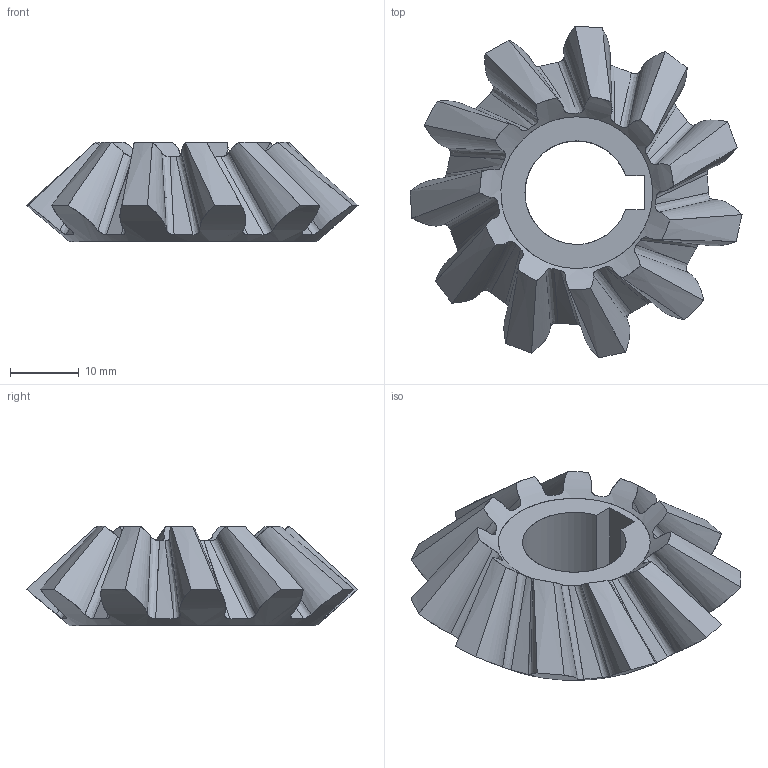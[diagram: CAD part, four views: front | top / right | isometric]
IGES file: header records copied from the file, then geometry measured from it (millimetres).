
Start section: Iges File created by ES
Global section: native system: ES; preprocessor: IGES.4B00; organization: JingDiao; units: millimetre
Bounding box: 48.13 x 48.12 x 14.46 mm (x, y, z)
Surface area: 5264 mm2 (no closed solid volume)
Topology: 0 solids, 0 shells, 82 faces, 720 edges, 716 vertices
Faces by surface type: bspline 82
